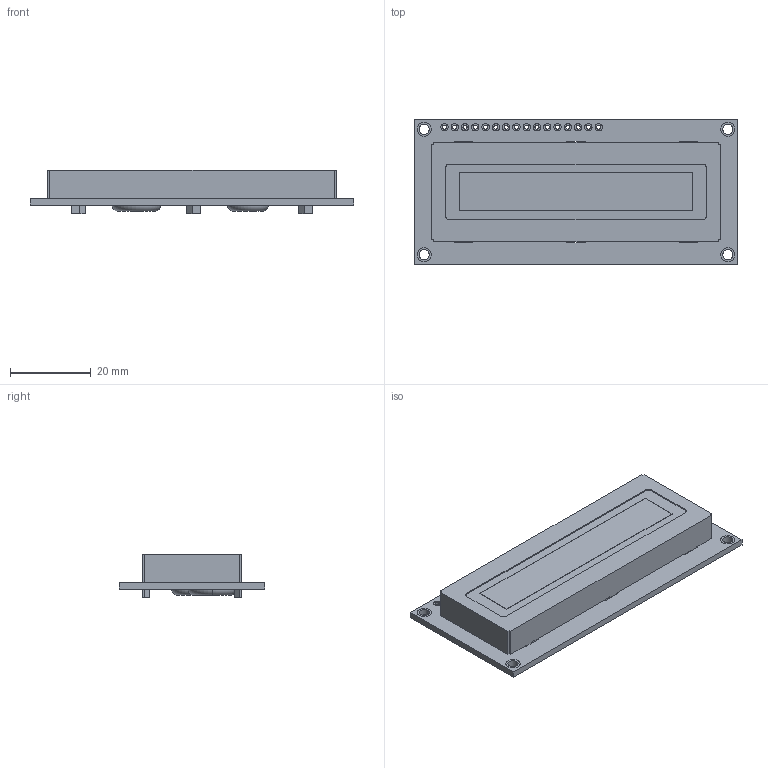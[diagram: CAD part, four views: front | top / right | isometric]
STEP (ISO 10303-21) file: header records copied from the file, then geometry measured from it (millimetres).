
FILE_DESCRIPTION (( 'STEP AP214' ), '1' );
FILE_NAME ('NHD-0216XZ-FSW.STEP', '2018-03-09T22:18:03', ( '' ), ( '' ), 'SwSTEP 2.0', 'SolidWorks 2018', '' );
FILE_SCHEMA (( 'AUTOMOTIVE_DESIGN' ));
Length unit declared in the file: millimetre
Products named in the file (1): NHD-0216XZ-FSW
Bounding box: 80 x 36 x 10.7 mm (x, y, z)
Volume: 16802.9 mm3; surface area: 7862.9 mm2
Topology: 1 solids, 1 shells, 307 faces, 768 edges, 502 vertices
Faces by surface type: plane 155, cylinder 148, torus 4
Entity records: 12745 total; most frequent: DIRECTION 1692, CARTESIAN_POINT 1578, ORIENTED_EDGE 1536, EDGE_CURVE 768, AXIS2_PLACEMENT_3D 616, VERTEX_POINT 502, LINE 460, VECTOR 460
